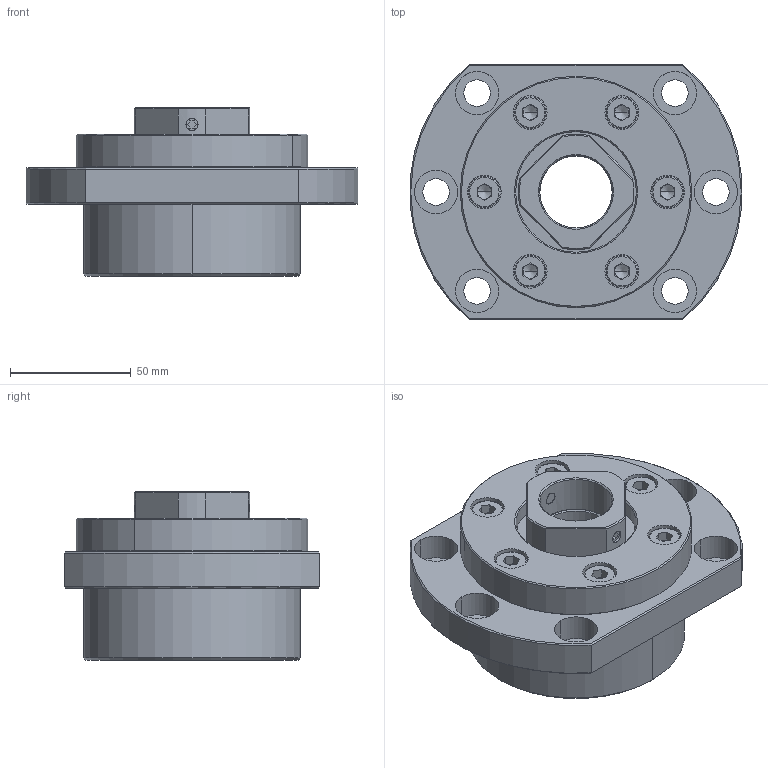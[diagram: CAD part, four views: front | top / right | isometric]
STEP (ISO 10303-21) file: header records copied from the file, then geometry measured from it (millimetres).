
FILE_DESCRIPTION (( 'STEP AP203' ), '1' );
FILE_NAME ('FK-30D P0-C7.STEP', '2016-08-22T00:44:17', ( '' ), ( '' ), 'SwSTEP 2.0', 'SolidWorks 2016', '' );
FILE_SCHEMA (( 'CONFIG_CONTROL_DESIGN' ));
Length unit declared in the file: millimetre
Products named in the file (1): FK-30D P0-C7
Bounding box: 137.56 x 106 x 70 mm (x, y, z)
Volume: 407037.5 mm3; surface area: 85167 mm2
Topology: 3 solids, 20 shells, 495 faces, 1097 edges, 652 vertices
Faces by surface type: plane 170, cylinder 160, cone 105, torus 60
Entity records: 13841 total; most frequent: DIRECTION 2598, CARTESIAN_POINT 2537, ORIENTED_EDGE 2138, EDGE_CURVE 1069, AXIS2_PLACEMENT_3D 1065, VERTEX_POINT 652, CIRCLE 569, EDGE_LOOP 569
